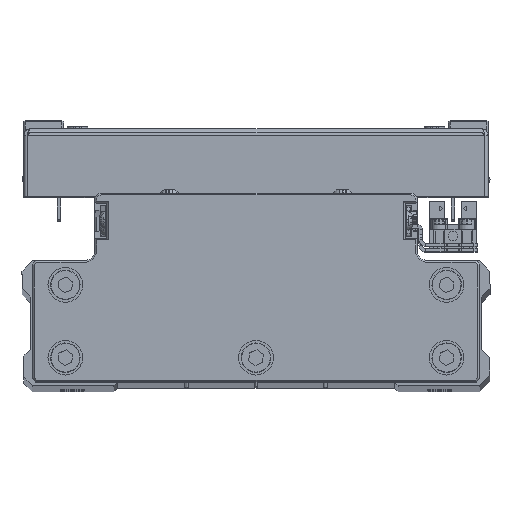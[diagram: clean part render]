
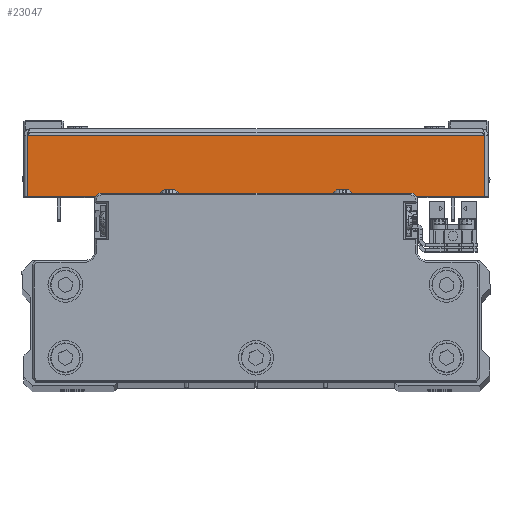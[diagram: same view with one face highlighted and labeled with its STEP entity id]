
A CAD part, top view. The second image highlights one B-rep face of the part: STEP entity #23047.
In plain terms, the highlighted planar face has unit normal (0, 0, 1) as drawn and (1, 0, 0) by its records, which use the part's own axes.
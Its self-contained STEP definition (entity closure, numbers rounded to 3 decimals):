
#1428 = CARTESIAN_POINT ( 'NONE',  ( 100., 0., -65.929 ) ) ;
#2925 = CARTESIAN_POINT ( 'NONE',  ( 100., 18.5, -65.929 ) ) ;
#3866 = VERTEX_POINT ( 'NONE', #39036 ) ;
#5850 = VERTEX_POINT ( 'NONE', #2925 ) ;
#6281 = CARTESIAN_POINT ( 'NONE',  ( 100., 1., 67. ) ) ;
#7075 = DIRECTION ( 'NONE',  ( -1., 0., 0. ) ) ;
#7978 = VECTOR ( 'NONE', #38846, 1000. ) ;
#9642 = VECTOR ( 'NONE', #20079, 1000. ) ;
#10482 = FACE_OUTER_BOUND ( 'NONE', #43512, .T. ) ;
#11197 = LINE ( 'NONE', #25019, #7978 ) ;
#11789 = EDGE_CURVE ( 'NONE', #5850, #3866, #11197, .T. ) ;
#14434 = LINE ( 'NONE', #28272, #33944 ) ;
#15248 = DIRECTION ( 'NONE',  ( 0., 1., 0. ) ) ;
#16596 = ORIENTED_EDGE ( 'NONE', *, *, #36935, .T. ) ;
#18386 = VERTEX_POINT ( 'NONE', #38853 ) ;
#20079 = DIRECTION ( 'NONE',  ( 0., 0., 1. ) ) ;
#20872 = DIRECTION ( 'NONE',  ( 0., -1., 0. ) ) ;
#23047 = ADVANCED_FACE ( 'NONE', ( #10482 ), #24284, .F. ) ;
#24284 = PLANE ( 'NONE',  #43225 ) ;
#25019 = CARTESIAN_POINT ( 'NONE',  ( 100., 18.5, 0. ) ) ;
#25511 = VECTOR ( 'NONE', #15248, 1000. ) ;
#28272 = CARTESIAN_POINT ( 'NONE',  ( 100., 0., 65.929 ) ) ;
#30689 = ORIENTED_EDGE ( 'NONE', *, *, #11789, .T. ) ;
#32489 = LINE ( 'NONE', #1428, #25511 ) ;
#32790 = EDGE_CURVE ( 'NONE', #18386, #3866, #14434, .T. ) ;
#33944 = VECTOR ( 'NONE', #42072, 1000. ) ;
#36433 = ORIENTED_EDGE ( 'NONE', *, *, #32790, .F. ) ;
#36935 = EDGE_CURVE ( 'NONE', #44101, #5850, #32489, .T. ) ;
#37333 = LINE ( 'NONE', #6281, #9642 ) ;
#37450 = EDGE_CURVE ( 'NONE', #44101, #18386, #37333, .T. ) ;
#38127 = CARTESIAN_POINT ( 'NONE',  ( 100., 0., 0. ) ) ;
#38846 = DIRECTION ( 'NONE',  ( 0., 0., 1. ) ) ;
#38853 = CARTESIAN_POINT ( 'NONE',  ( 100., 1., 65.929 ) ) ;
#39036 = CARTESIAN_POINT ( 'NONE',  ( 100., 18.5, 65.929 ) ) ;
#42058 = CARTESIAN_POINT ( 'NONE',  ( 100., 1., -65.929 ) ) ;
#42072 = DIRECTION ( 'NONE',  ( 0., 1., 0. ) ) ;
#43225 = AXIS2_PLACEMENT_3D ( 'NONE', #38127, #7075, #20872 ) ;
#43400 = ORIENTED_EDGE ( 'NONE', *, *, #37450, .F. ) ;
#43512 = EDGE_LOOP ( 'NONE', ( #43400, #16596, #30689, #36433 ) ) ;
#44101 = VERTEX_POINT ( 'NONE', #42058 ) ;
